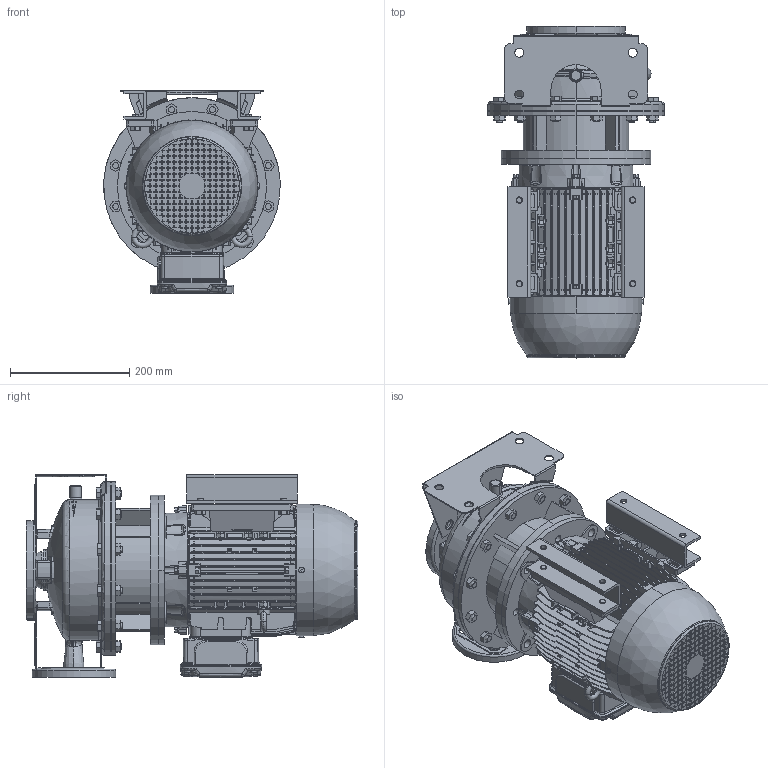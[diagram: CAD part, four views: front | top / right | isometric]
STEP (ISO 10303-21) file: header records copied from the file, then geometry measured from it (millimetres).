
FILE_DESCRIPTION (( 'STEP AP214' ), '1' );
FILE_NAME ('3LS 32-200_4.0_(112M)_W21.STEP', '2026-04-29T01:26:42', ( '' ), ( '' ), 'SwSTEP 2.0', 'SolidWorks 2024', '' );
FILE_SCHEMA (( 'AUTOMOTIVE_DESIGN' ));
Length unit declared in the file: inch
Products named in the file (4): 3LS 32-200_4.0_(112M)_W21; Bolt & Washer M10 x 20.STEP; 112M ALIE3_W21T_B35; 32-200_4_ie2_STEP
Assembly tree (6 placements, depth 2):
  3LS 32-200_4.0_(112M)_W21
    32-200_4_ie2_STEP
    112M ALIE3_W21T_B35
    Bolt & Washer M10 x 20.STEP  x4
Bounding box: 295.54 x 556.1 x 340 mm (x, y, z)
Volume: 17965223.8 mm3; surface area: 1698016.5 mm2
Topology: 24 solids, 26 shells, 4403 faces, 11769 edges, 7711 vertices
Faces by surface type: plane 2574, cylinder 854, bspline 400, cone 310, torus 248, sphere 17
Entity records: 175734 total; most frequent: CARTESIAN_POINT 72110, ORIENTED_EDGE 23124, DIRECTION 18906, EDGE_CURVE 11562, VERTEX_POINT 7585, VECTOR 6956, LINE 6956, AXIS2_PLACEMENT_3D 5975
